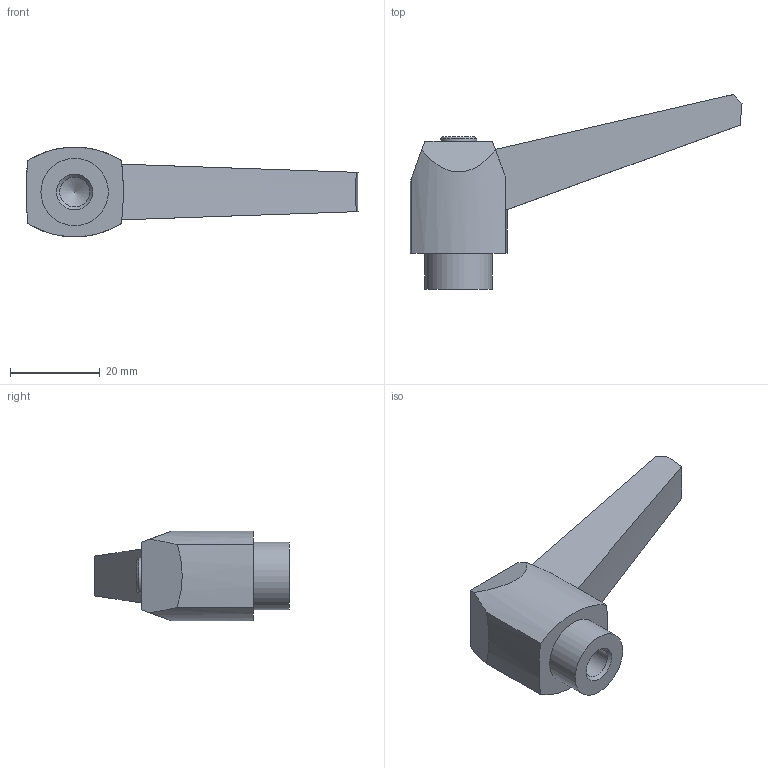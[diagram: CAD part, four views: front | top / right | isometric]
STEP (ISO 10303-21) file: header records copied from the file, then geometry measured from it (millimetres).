
FILE_DESCRIPTION( ( 'STEP AP203' ), '1' );
FILE_NAME( 'C:/Temp/Ganter_Step_05_03_2020/data/2_1/gn_500/gn_500_mb/Adjustable hand lever GN 500-63-M8-SW.stp', '2020-03-05T11:26:28', ( 'License CC BY-ND 4.0' ), ( 'CADENAS' ), ' ', 'PARTsolutions', ' ' );
FILE_SCHEMA( ( 'CONFIG_CONTROL_DESIGN' ) );
Length unit declared in the file: millimetre
Products named in the file (1): _Adjustable hand lever GN 500-63-M8-SW
Bounding box: 73.9 x 43.35 x 20 mm (x, y, z)
Volume: 15988.1 mm3; surface area: 5261.4 mm2
Topology: 1 solids, 1 shells, 24 faces, 58 edges, 38 vertices
Faces by surface type: plane 10, cone 7, cylinder 7
Full cylindrical faces by diameter (mm): 6.647 x1, 8 x1, 15 x1
Entity records: 712 total; most frequent: DIRECTION 122, CARTESIAN_POINT 118, ORIENTED_EDGE 100, EDGE_CURVE 50, AXIS2_PLACEMENT_3D 49, VERTEX_POINT 37, EDGE_LOOP 32, FACE_OUTER_BOUND 27
